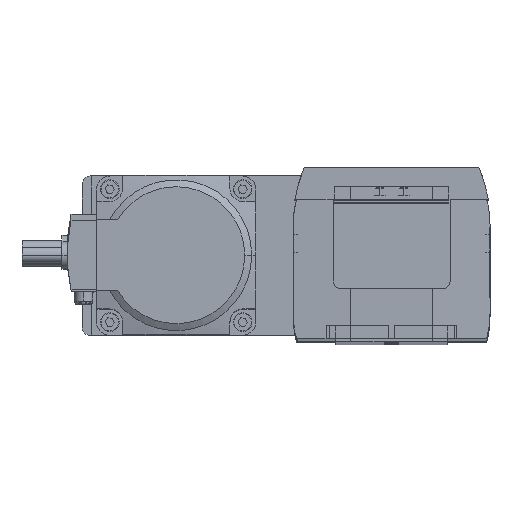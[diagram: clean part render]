
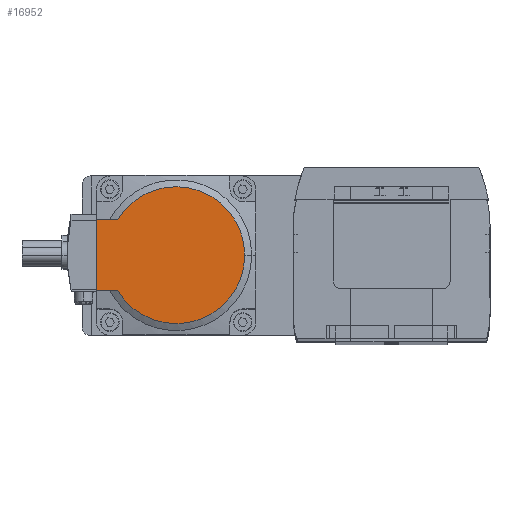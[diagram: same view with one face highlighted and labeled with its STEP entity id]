
A CAD part, top view. The second image highlights one B-rep face of the part: STEP entity #16952.
In plain terms, the highlighted planar face has unit normal (0, 0, 1).
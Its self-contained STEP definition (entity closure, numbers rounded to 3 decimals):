
#1447 = DIRECTION ( 'NONE',  ( 0., 0., -1. ) ) ;
#2033 = PLANE ( 'NONE',  #12270 ) ;
#2521 = LINE ( 'NONE', #14210, #26184 ) ;
#2880 = CARTESIAN_POINT ( 'NONE',  ( 84.111, -17.281, 101. ) ) ;
#3294 = CARTESIAN_POINT ( 'NONE',  ( 76.19, -17.281, 101. ) ) ;
#4930 = DIRECTION ( 'NONE',  ( 1., 0., 0. ) ) ;
#4940 = DIRECTION ( 'NONE',  ( 0., -1., 0. ) ) ;
#5109 = CARTESIAN_POINT ( 'NONE',  ( 106.19, -17.281, 101. ) ) ;
#5899 = DIRECTION ( 'NONE',  ( 1., 0., 0. ) ) ;
#7107 = DIRECTION ( 'NONE',  ( 1., 0., 0. ) ) ;
#7154 = EDGE_CURVE ( 'NONE', #16800, #10671, #2521, .T. ) ;
#8449 = CARTESIAN_POINT ( 'NONE',  ( 131.94, -4.031, 101. ) ) ;
#8466 = CARTESIAN_POINT ( 'NONE',  ( 76.19, -34.031, 101. ) ) ;
#8625 = EDGE_CURVE ( 'NONE', #16800, #20257, #9313, .T. ) ;
#9313 = LINE ( 'NONE', #26154, #13308 ) ;
#9701 = ORIENTED_EDGE ( 'NONE', *, *, #16150, .F. ) ;
#10134 = ORIENTED_EDGE ( 'NONE', *, *, #26357, .F. ) ;
#10671 = VERTEX_POINT ( 'NONE', #3294 ) ;
#11447 = ORIENTED_EDGE ( 'NONE', *, *, #27568, .T. ) ;
#11946 = LINE ( 'NONE', #5109, #23434 ) ;
#12270 = AXIS2_PLACEMENT_3D ( 'NONE', #8466, #28597, #7107 ) ;
#12807 = CARTESIAN_POINT ( 'NONE',  ( 84.111, 9.219, 101. ) ) ;
#13308 = VECTOR ( 'NONE', #5899, 1000. ) ;
#14003 = CARTESIAN_POINT ( 'NONE',  ( 106.19, -4.031, 101. ) ) ;
#14057 = CIRCLE ( 'NONE', #25348, 25.75 ) ;
#14210 = CARTESIAN_POINT ( 'NONE',  ( 76.19, -4.031, 101. ) ) ;
#14558 = AXIS2_PLACEMENT_3D ( 'NONE', #15124, #1447, #17482 ) ;
#15124 = CARTESIAN_POINT ( 'NONE',  ( 106.19, -4.031, 101. ) ) ;
#16150 = EDGE_CURVE ( 'NONE', #29744, #19445, #14057, .T. ) ;
#16304 = DIRECTION ( 'NONE',  ( 0., 0., -1. ) ) ;
#16576 = CIRCLE ( 'NONE', #14558, 25.75 ) ;
#16800 = VERTEX_POINT ( 'NONE', #23821 ) ;
#16952 = ADVANCED_FACE ( 'NONE', ( #27940 ), #2033, .F. ) ;
#17482 = DIRECTION ( 'NONE',  ( 1., 0., 0. ) ) ;
#19445 = VERTEX_POINT ( 'NONE', #2880 ) ;
#20257 = VERTEX_POINT ( 'NONE', #12807 ) ;
#23073 = EDGE_LOOP ( 'NONE', ( #10134, #26267, #26153, #11447, #9701 ) ) ;
#23434 = VECTOR ( 'NONE', #27975, 1000. ) ;
#23821 = CARTESIAN_POINT ( 'NONE',  ( 76.19, 9.219, 101. ) ) ;
#25348 = AXIS2_PLACEMENT_3D ( 'NONE', #14003, #16304, #4930 ) ;
#26153 = ORIENTED_EDGE ( 'NONE', *, *, #7154, .T. ) ;
#26154 = CARTESIAN_POINT ( 'NONE',  ( 106.19, 9.219, 101. ) ) ;
#26184 = VECTOR ( 'NONE', #4940, 1000. ) ;
#26267 = ORIENTED_EDGE ( 'NONE', *, *, #8625, .F. ) ;
#26357 = EDGE_CURVE ( 'NONE', #20257, #29744, #16576, .T. ) ;
#27568 = EDGE_CURVE ( 'NONE', #10671, #19445, #11946, .T. ) ;
#27940 = FACE_OUTER_BOUND ( 'NONE', #23073, .T. ) ;
#27975 = DIRECTION ( 'NONE',  ( 1., 0., 0. ) ) ;
#28597 = DIRECTION ( 'NONE',  ( 0., 0., -1. ) ) ;
#29744 = VERTEX_POINT ( 'NONE', #8449 ) ;
